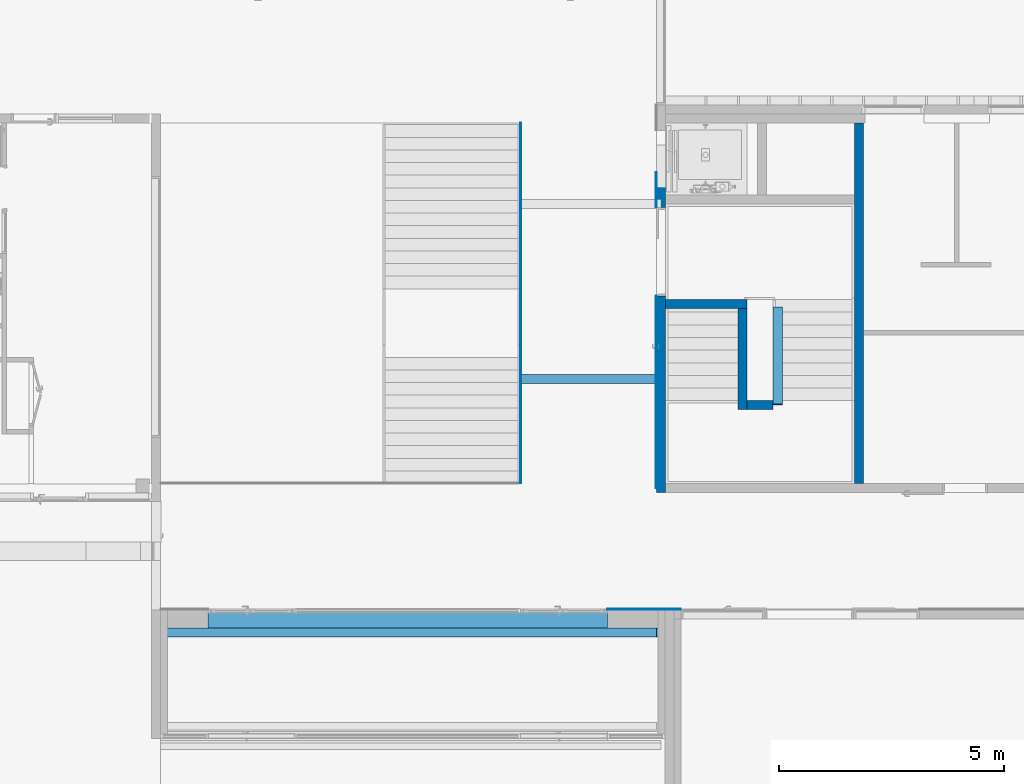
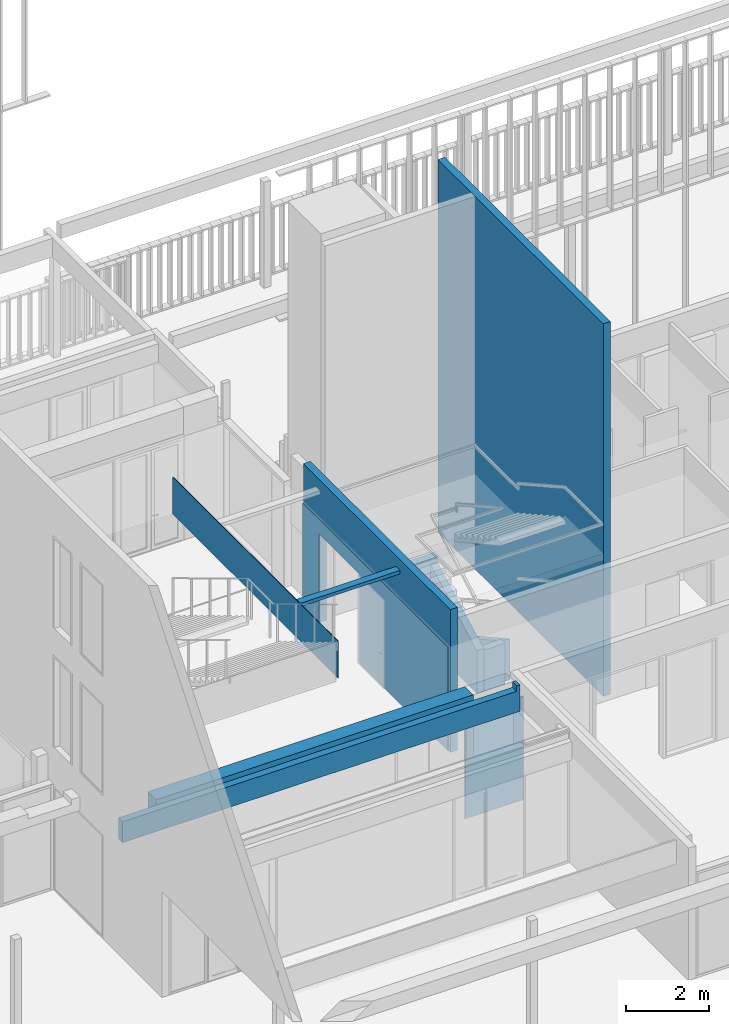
# One storey, part 147 of 240: 12 walls, 2 openings.
"""IFC2X3 building model written with IfcOpenShell, lengths in centimetres."""

from ifc_helpers import new_model, entity, si_unit, converted_unit, derived_unit, direction, frame, frame_2d, origin, place, context, subcontext, project, spatial, polyline, rectangle, extrude, clip, halfspace, bounded_halfspace, material, layer, layer_set, layer_usage, type_object, element, save


model = new_model("IFC2X3")

# Units and contexts
model_context = context("Model", 3, precision=0.001, world=origin(), true_north=direction((6.12303176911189e-17, 1.0)))
body_context = subcontext(model_context, "Body", "Model", "MODEL_VIEW")
ifc_project = project(units=[si_unit("LENGTHUNIT", "METRE", prefix="CENTI"), si_unit("AREAUNIT", "SQUARE_METRE"), si_unit("VOLUMEUNIT", "CUBIC_METRE"), converted_unit("PLANEANGLEUNIT", "DEGREE", entity("IfcRatioMeasure", 0.0174532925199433), si_unit("PLANEANGLEUNIT", "RADIAN"), dimensions=[0, 0, 0, 0, 0, 0, 0]), si_unit("MASSUNIT", "GRAM", prefix="KILO"), derived_unit("MASSDENSITYUNIT", [(si_unit("MASSUNIT", "GRAM", prefix="KILO"), 1), (si_unit("LENGTHUNIT", "METRE"), -3)]), si_unit("TIMEUNIT", "SECOND"), si_unit("FREQUENCYUNIT", "HERTZ"), si_unit("THERMODYNAMICTEMPERATUREUNIT", "DEGREE_CELSIUS"), derived_unit("THERMALTRANSMITTANCEUNIT", [(si_unit("MASSUNIT", "GRAM", prefix="KILO"), 1), (si_unit("THERMODYNAMICTEMPERATUREUNIT", "KELVIN"), -1), (si_unit("TIMEUNIT", "SECOND"), -3)]), derived_unit("VOLUMETRICFLOWRATEUNIT", [(si_unit("LENGTHUNIT", "METRE"), 3), (si_unit("TIMEUNIT", "SECOND"), -1)]), si_unit("ELECTRICCURRENTUNIT", "AMPERE"), si_unit("ELECTRICVOLTAGEUNIT", "VOLT"), si_unit("POWERUNIT", "WATT"), si_unit("FORCEUNIT", "NEWTON", prefix="KILO"), si_unit("ILLUMINANCEUNIT", "LUX"), si_unit("LUMINOUSFLUXUNIT", "LUMEN"), si_unit("LUMINOUSINTENSITYUNIT", "CANDELA"), derived_unit("USERDEFINED", [(si_unit("MASSUNIT", "GRAM", prefix="KILO"), -1), (si_unit("LENGTHUNIT", "METRE"), -2), (si_unit("TIMEUNIT", "SECOND"), 3), (si_unit("LUMINOUSFLUXUNIT", "LUMEN"), 1)]), derived_unit("LINEARVELOCITYUNIT", [(si_unit("LENGTHUNIT", "METRE"), 1), (si_unit("TIMEUNIT", "SECOND"), -1)]), si_unit("PRESSUREUNIT", "PASCAL"), derived_unit("USERDEFINED", [(si_unit("LENGTHUNIT", "METRE"), -2), (si_unit("MASSUNIT", "GRAM", prefix="KILO"), 1), (si_unit("TIMEUNIT", "SECOND"), -2)])], contexts=[model_context])

# Site, building, storey
site_placement = place(None, frame((-2781.94577612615, 7442.24238424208, 0.0)))
site = spatial("IfcSite", under=ifc_project, at=site_placement, Name="Default", CompositionType="ELEMENT")
building_placement = place(site_placement, origin())
building = spatial("IfcBuilding", under=site, at=building_placement, CompositionType="ELEMENT")
storey_placement = place(building_placement, origin())
storey = spatial("IfcBuildingStorey", under=building, at=storey_placement, Name="N00 - COO", CompositionType="ELEMENT", Elevation=0.0)

# Walls
ifc_material_1 = material(Name="01 - Maçonnerie")
ifc_layer_1 = layer(ifc_material_1, 20.0)
ifc_layer_set_1 = layer_set([ifc_layer_1], Name="Mur de base:04 - Structure - béton - 20cm")
ifc_layer_usage_1 = layer_usage(ifc_layer_set_1, "AXIS2", "NEGATIVE", 10.0)
wall_type_1 = type_object("IfcWallType", Name="Mur de base:04 - Structure - béton - 20cm", PredefinedType="STANDARD", material=ifc_layer_set_1)
wall_1_placement = place(building_placement, frame((-3219.29988284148, -1910.07903364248, 0.0), z_axis=(0.0, 0.0, 1.0), x_axis=(0.0, 1.0, 0.0)))
element("IfcWallStandardCase", 1, at=wall_1_placement, inside=storey, type_object=wall_type_1, material=ifc_layer_usage_1, Name="Mur de base:04 - Structure - béton - 20cm", ObjectType="Mur de base:04 - Structure - béton - 20cm", context=body_context, shape_type="SweptSolid", body=[
    extrude(rectangle(XDim=800.079033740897, YDim=19.9999999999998, at=frame_2d((400.039516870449, 1.04805053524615e-13), x_axis=(-1.0, 0.0))), origin(), (0.0, 0.0, 1.0), 1100.0),
])
ifc_layer_usage_2 = layer_usage(ifc_layer_set_1, "AXIS2", "NEGATIVE", 10.0)
wall_2_placement = place(building_placement, frame((-3467.99987968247, -1512.07903364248, 0.0), z_axis=(0.0, 0.0, 1.0), x_axis=(-1.0, 0.0, 0.0)))
element("IfcWallStandardCase", 2, at=wall_2_placement, inside=storey, type_object=wall_type_1, material=ifc_layer_usage_2, Name="Mur de base:04 - Structure - béton - 20cm", ObjectType="Mur de base:04 - Structure - béton - 20cm", context=body_context, shape_type="SweptSolid", body=[
    extrude(rectangle(XDim=180.0, YDim=20.0000000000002, at=frame_2d((89.9999999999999, -1.68753899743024e-14), x_axis=(-1.0, 0.0))), origin(), (0.0, 0.0, 1.0), 261.333333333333),
])

# Wall, opening
ifc_layer_usage_3 = layer_usage(ifc_layer_set_1, "AXIS2", "NEGATIVE", 10.0)
wall_3_placement = place(building_placement, frame((-3657.99987968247, -1930.07903364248, 0.0), z_axis=(0.0, 0.0, 1.0), x_axis=(0.0, 1.0, 0.0)))
wall_3 = element("IfcWallStandardCase", 3, at=wall_3_placement, inside=storey, type_object=wall_type_1, material=ifc_layer_usage_3, Name="Mur de base:04 - Structure - béton - 20cm", ObjectType="Mur de base:04 - Structure - béton - 20cm", context=body_context, shape_type="SweptSolid", body=[
    extrude(rectangle(XDim=710.97226327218, YDim=19.9999999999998, at=frame_2d((355.48613163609, 6.21724893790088e-15), x_axis=(-1.0, 0.0))), origin(), (0.0, 0.0, 1.0), 422.0),
])
opening_1_placement = place(wall_3_placement, frame((435.500000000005, -10.0, 0.0)))
element("IfcOpeningElement", 4, at=opening_1_placement, cuts=wall_3, Name="Int. Tierce:PP (1.90m x 2.60m):1", ObjectType="Opening", context=body_context, shape_type="SweptSolid", body=[
    extrude(rectangle(XDim=263.500000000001, YDim=197.0, at=frame_2d((131.750000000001, 98.4999999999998), x_axis=(1.0, 0.0))), frame((0.0, 0.0, 0.0), z_axis=(0.0, 1.0, 0.0), x_axis=(0.0, 0.0, 1.0)), (0.0, 0.0, 1.0), 20.0),
])

# Walls
ifc_layer_usage_4 = layer_usage(ifc_layer_set_1, "AXIS2", "NEGATIVE", 10.0)
wall_4_placement = place(building_placement, frame((-3477.99987968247, -1522.07903364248, 0.0), z_axis=(0.0, 0.0, 1.0), x_axis=(0.0, -1.0, 0.0)))
element("IfcWallStandardCase", 5, at=wall_4_placement, inside=storey, type_object=wall_type_1, material=ifc_layer_usage_4, Name="Mur de base:04 - Structure - béton - 20cm", ObjectType="Mur de base:04 - Structure - béton - 20cm", context=body_context, shape_type="Clipping", body=[
    clip(extrude(rectangle(XDim=223.999999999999, YDim=19.9999999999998, at=frame_2d((112.0, -9.14823772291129e-14), x_axis=(-1.0, 0.0))), origin(), (0.0, 0.0, 1.0), 245.626911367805), halfspace(frame((0.0, -10.0, 245.626911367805), z_axis=(0.470552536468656, 0.0, 0.882371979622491), x_axis=(0.0, 1.0, 0.0)), False)),
])
ifc_layer_usage_5 = layer_usage(ifc_layer_set_1, "AXIS2", "NEGATIVE", 10.0)
wall_5_placement = place(building_placement, frame((-3467.99987968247, -1736.07903364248, 0.0)))
element("IfcWallStandardCase", 6, at=wall_5_placement, inside=storey, type_object=wall_type_1, material=ifc_layer_usage_5, Name="Mur de base:04 - Structure - béton - 20cm", ObjectType="Mur de base:04 - Structure - béton - 20cm", context=body_context, shape_type="SweptSolid", body=[
    extrude(rectangle(XDim=58.6999968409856, YDim=20.0000000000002, at=frame_2d((29.3499984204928, -4.44089209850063e-15), x_axis=(-1.0, 0.0))), origin(), (0.0, 0.0, 1.0), 120.666666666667),
])
ifc_layer_usage_6 = layer_usage(ifc_layer_set_1, "AXIS2", "NEGATIVE", 10.0)
wall_6_placement = place(storey_placement, frame((-3399.29988284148, -1518.49241720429, 0.0), z_axis=(0.0, 0.0, 1.0), x_axis=(0.0, -1.0, 0.0)))
element("IfcWallStandardCase", 7, at=wall_6_placement, inside=storey, type_object=wall_type_1, material=ifc_layer_usage_6, Name="Mur de base:04 - Structure - béton - 20cm", ObjectType="Mur de base:04 - Structure - béton - 20cm", context=body_context, shape_type="Clipping", body=[
    clip(extrude(rectangle(XDim=217.586616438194, YDim=19.9999999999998, at=frame_2d((108.793308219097, -9.41469124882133e-14), x_axis=(-1.0, 0.0))), origin(), (0.0, 0.0, 1.0), 121.457079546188), halfspace(frame((0.0, -10.0, 0.0), z_axis=(-0.487407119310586, 0.0, 0.873174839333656), x_axis=(0.0, 1.0, 0.0)), False)),
])
ifc_layer_2 = layer(ifc_material_1, 40.0)
ifc_layer_set_2 = layer_set([ifc_layer_2], Name="Mur de base:04 - Structure - Béton - 40")
ifc_layer_usage_7 = layer_usage(ifc_layer_set_2, "AXIS2", "NEGATIVE", 20.0)
wall_type_2 = type_object("IfcWallType", Name="Mur de base:04 - Structure - Béton - 40", PredefinedType="STANDARD", material=ifc_layer_set_2)
wall_7_placement = place(storey_placement, frame((-3777.26283441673, -2210.15656731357, 313.0), z_axis=(0.0, 0.0, 1.0), x_axis=(-1.0, 0.0, 0.0)))
element("IfcWallStandardCase", 8, at=wall_7_placement, inside=storey, type_object=wall_type_2, material=ifc_layer_usage_7, Name="Mur de base:04 - Structure - Béton - 40", ObjectType="Mur de base:04 - Structure - Béton - 40", context=body_context, shape_type="SweptSolid", body=[
    extrude(rectangle(XDim=885.494090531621, YDim=40.0000000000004, at=frame_2d((442.74704526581, -1.08357767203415e-13), x_axis=(-1.0, 0.0))), origin(), (0.0, 0.0, 1.0), 78.0000000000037),
])
ifc_material_2 = material(Name="01 - Enduit/Plâtre")
ifc_layer_3 = layer(ifc_material_2, 1.3)
ifc_material_3 = material(Name="00 - VIDE D'AIR")
ifc_layer_4 = layer(ifc_material_3, 0.7)
ifc_layer_set_3 = layer_set([ifc_layer_3, ifc_layer_4], Name="Mur de base:06 - habillage Ba13 collée 2cm")
ifc_layer_usage_8 = layer_usage(ifc_layer_set_3, "AXIS2", "NEGATIVE", 1.0)
wall_type_3 = type_object("IfcWallType", Name="Mur de base:06 - habillage Ba13 collée 2cm", PredefinedType="STANDARD", material=ifc_layer_set_3)
wall_8_placement = place(building_placement, frame((-3968.99987968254, -1909.07903364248, 313.0), z_axis=(0.0, 0.0, 1.0), x_axis=(0.0, 1.0, 0.0)))
element("IfcWallStandardCase", 9, at=wall_8_placement, inside=storey, type_object=wall_type_3, material=ifc_layer_usage_8, Name="Mur de base:06 - habillage Ba13 collée 2cm", ObjectType="Mur de base:06 - habillage Ba13 collée 2cm", context=body_context, shape_type="SweptSolid", body=[
    extrude(rectangle(XDim=799.079033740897, YDim=1.99999999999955, at=frame_2d((399.539516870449, -4.52415882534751e-14), x_axis=(-1.0, 0.0))), origin(), (0.0, 0.0, 1.0), 109.0),
])
ifc_material_4 = material(Name="Pin")
ifc_layer_5 = layer(ifc_material_4, 2.0)
ifc_layer_set_4 = layer_set([ifc_layer_5], Name="Mur de base:06 - habillage bois collée 2cm")
ifc_layer_usage_9 = layer_usage(ifc_layer_set_4, "AXIS2", "NEGATIVE", 1.0)
wall_type_4 = type_object("IfcWallType", Name="Mur de base:06 - habillage bois collée 2cm", PredefinedType="STANDARD", material=ifc_layer_set_4)
wall_9_placement = place(building_placement, frame((-3777.26283441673, -2189.15656731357, 0.0)))
element("IfcWallStandardCase", 10, at=wall_9_placement, inside=storey, type_object=wall_type_4, material=ifc_layer_usage_9, Name="Mur de base:06 - habillage bois collée 2cm", ObjectType="Mur de base:06 - habillage bois collée 2cm", context=body_context, shape_type="SweptSolid", body=[
    extrude(rectangle(XDim=163.0, YDim=2.00000000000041, at=frame_2d((81.5000000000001, 0.0), x_axis=(-1.0, 0.0))), origin(), (0.0, 0.0, 1.0), 306.0),
])

# Wall, opening
ifc_layer_usage_10 = layer_usage(ifc_layer_set_4, "AXIS2", "NEGATIVE", 1.0)
wall_10_placement = place(storey_placement, frame((-3668.99987968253, -1920.07903364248, 0.0), z_axis=(0.0, 0.0, 1.0), x_axis=(0.0, 1.0, 0.0)))
wall_10 = element("IfcWallStandardCase", 11, at=wall_10_placement, inside=storey, type_object=wall_type_4, material=ifc_layer_usage_10, Name="Mur de base:06 - habillage bois collée 2cm", ObjectType="Mur de base:06 - habillage bois collée 2cm", context=body_context, shape_type="SweptSolid", body=[
    extrude(rectangle(XDim=700.97226327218, YDim=2.00000000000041, at=frame_2d((350.48613163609, 0.0), x_axis=(-1.0, 0.0))), origin(), (0.0, 0.0, 1.0), 306.0),
])
opening_2_placement = place(wall_10_placement, origin())
element("IfcOpeningElement", 12, at=opening_2_placement, cuts=wall_10, Name="Mur de base:06 - habillage bois collée 2cm", ObjectType="Opening", context=body_context, shape_type="SweptSolid", body=[
    extrude(rectangle(XDim=263.500000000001, YDim=197.0, at=frame_2d((-1.06581410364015e-13, 0.0), x_axis=(0.0, 1.0))), frame((524.0, -153.400000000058, 131.750000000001), z_axis=(0.0, 1.0, 0.0), x_axis=(-1.0, 0.0, 0.0)), (0.0, 0.0, 1.0), 304.8),
])

# Walls
ifc_layer_6 = layer(ifc_material_1, 20.0)
ifc_layer_set_5 = layer_set([ifc_layer_6], Name="Mur de base:04 - Structure - Poutre béton - (20x25 ht)")
ifc_layer_usage_11 = layer_usage(ifc_layer_set_5, "AXIS2", "NEGATIVE", 10.0)
wall_type_5 = type_object("IfcWallType", Name="Mur de base:04 - Structure - Poutre béton - (20x25 ht)", PredefinedType="STANDARD", material=ifc_layer_set_5)
wall_11_placement = place(building_placement, frame((-3667.99987968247, -1677.73022650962, 381.0), z_axis=(0.0, 0.0, 1.0), x_axis=(-1.0, 0.0, 0.0)))
element("IfcWallStandardCase", 13, at=wall_11_placement, inside=storey, type_object=wall_type_5, material=ifc_layer_usage_11, Name="Mur de base:04 - Structure - Poutre béton - (20x25 ht)", ObjectType="Mur de base:04 - Structure - Poutre béton - (20x25 ht)", context=body_context, shape_type="SweptSolid", body=[
    extrude(rectangle(XDim=300.00000000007, YDim=20.0000000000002, at=frame_2d((150.000000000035, -2.66453525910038e-15), x_axis=(-1.0, 0.0))), origin(), (0.0, 0.0, 1.0), 10.0000000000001),
])
ifc_material_5 = material(Name="00 - Isolant")
ifc_layer_7 = layer(ifc_material_5, 20.0)
ifc_layer_set_6 = layer_set([ifc_layer_7], Name="Mur de base:04 - retour isolation acrotère - ITE 20 cm")
ifc_layer_usage_12 = layer_usage(ifc_layer_set_6, "AXIS2", "NEGATIVE", 10.0)
wall_type_6 = type_object("IfcWallType", Name="Mur de base:04 - retour isolation acrotère - ITE 20 cm", PredefinedType="STANDARD", material=ifc_layer_set_6)
wall_12_placement = place(storey_placement, frame((-4767.99987760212, -2240.15656731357, 313.0)))
element("IfcWallStandardCase", 14, at=wall_12_placement, inside=storey, type_object=wall_type_6, material=ifc_layer_usage_12, Name="Mur de base:04 - retour isolation acrotère - ITE 20 cm", ObjectType="Mur de base:04 - retour isolation acrotère - ITE 20 cm", context=body_context, shape_type="Clipping", body=[
    clip(clip(extrude(rectangle(XDim=1109.99999791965, YDim=19.9999999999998, at=frame_2d((554.999998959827, 4.70734562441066e-14), x_axis=(-1.0, 0.0))), origin(), (0.0, 0.0, 1.0), 78.0000000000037), bounded_halfspace(frame((1100.0, -10.0, 62.0), z_axis=(0.0, 0.0, -1.0), x_axis=(0.0, -1.0, 0.0)), True, frame((1100.0, -10.0, 62.0), z_axis=(0.0, 0.0, -1.0), x_axis=(0.0, -1.0, 0.0)), polyline([(0.0, 0.0), (0.0, 1100.0), (-20.0, 1100.0), (-20.0, 0.0), (0.0, 0.0)]))), bounded_halfspace(frame((1100.0, 10.0, 62.0), z_axis=(1.0, 0.0, 0.0), x_axis=(0.0, 0.0, 1.0)), True, frame((1100.0, 10.0, 62.0), z_axis=(1.0, 0.0, 0.0), x_axis=(0.0, 0.0, 1.0)), polyline([(0.0, 0.0), (16.0, 0.0), (16.0, 20.0), (0.0, 20.0), (0.0, 0.0)]))),
])

save(model, "model.ifc")
